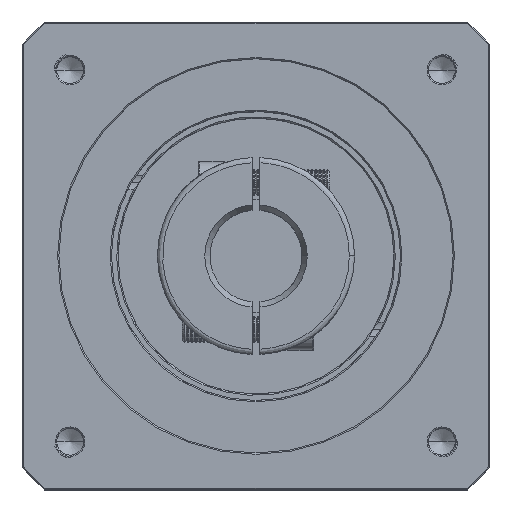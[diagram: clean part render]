
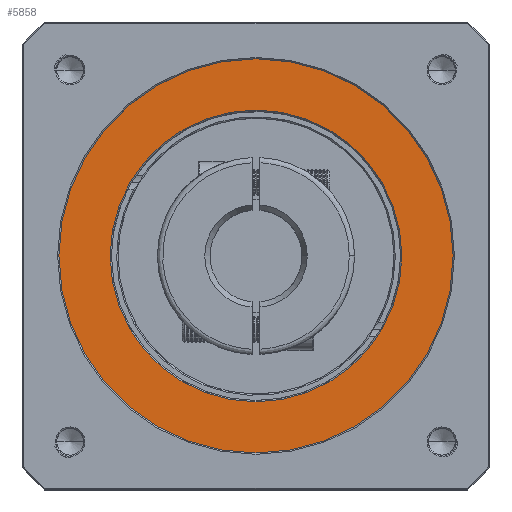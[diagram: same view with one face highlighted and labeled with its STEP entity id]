
A CAD part, top view. The second image highlights one B-rep face of the part: STEP entity #5858.
In plain terms, the highlighted planar face has unit normal (0, 0, 1).
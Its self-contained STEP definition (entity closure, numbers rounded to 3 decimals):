
#1558 = EDGE_CURVE ( 'NONE', #119367, #114705, #43926, .T. ) ;
#4806 = CARTESIAN_POINT ( 'NONE',  ( -70.688, 108.636, 9.651 ) ) ;
#5858 = ADVANCED_FACE ( 'NONE', ( #94772, #16259 ), #11797, .T. ) ;
#10297 = CARTESIAN_POINT ( 'NONE',  ( -145.688, 108.636, 9.651 ) ) ;
#11797 = PLANE ( 'NONE',  #82902 ) ;
#11944 = ORIENTED_EDGE ( 'NONE', *, *, #73073, .T. ) ;
#15308 = DIRECTION ( 'NONE',  ( 1., 0., 0. ) ) ;
#16259 = FACE_OUTER_BOUND ( 'NONE', #79743, .T. ) ;
#17910 = CARTESIAN_POINT ( 'NONE',  ( -70.688, 108.636, 9.651 ) ) ;
#22707 = AXIS2_PLACEMENT_3D ( 'NONE', #102888, #123915, #93685 ) ;
#26556 = ORIENTED_EDGE ( 'NONE', *, *, #133955, .T. ) ;
#32829 = CARTESIAN_POINT ( 'NONE',  ( 4.312, 108.636, 9.651 ) ) ;
#36257 = EDGE_CURVE ( 'NONE', #114705, #119367, #131810, .T. ) ;
#39808 = DIRECTION ( 'NONE',  ( 1., 0., 0. ) ) ;
#43722 = DIRECTION ( 'NONE',  ( 0., 0., 1. ) ) ;
#43926 = CIRCLE ( 'NONE', #118180, 75. ) ;
#45766 = CARTESIAN_POINT ( 'NONE',  ( -126.188, 108.636, 9.651 ) ) ;
#60333 = DIRECTION ( 'NONE',  ( 0., 0., -1. ) ) ;
#66281 = CIRCLE ( 'NONE', #22707, 55.5 ) ;
#66405 = DIRECTION ( 'NONE',  ( 0., 0., 1. ) ) ;
#73073 = EDGE_CURVE ( 'NONE', #78484, #123289, #92467, .T. ) ;
#78484 = VERTEX_POINT ( 'NONE', #93653 ) ;
#79743 = EDGE_LOOP ( 'NONE', ( #105182, #117814 ) ) ;
#79800 = DIRECTION ( 'NONE',  ( 1., 0., 0. ) ) ;
#82902 = AXIS2_PLACEMENT_3D ( 'NONE', #96728, #43722, #127778 ) ;
#86902 = AXIS2_PLACEMENT_3D ( 'NONE', #89813, #110947, #79800 ) ;
#89813 = CARTESIAN_POINT ( 'NONE',  ( -70.688, 108.636, 9.651 ) ) ;
#92467 = CIRCLE ( 'NONE', #123761, 55.5 ) ;
#93653 = CARTESIAN_POINT ( 'NONE',  ( -15.188, 108.636, 9.651 ) ) ;
#93685 = DIRECTION ( 'NONE',  ( 1., 0., 0. ) ) ;
#94772 = FACE_BOUND ( 'NONE', #100508, .T. ) ;
#96728 = CARTESIAN_POINT ( 'NONE',  ( -70.688, 108.636, 9.651 ) ) ;
#100508 = EDGE_LOOP ( 'NONE', ( #11944, #26556 ) ) ;
#102888 = CARTESIAN_POINT ( 'NONE',  ( -70.688, 108.636, 9.651 ) ) ;
#105182 = ORIENTED_EDGE ( 'NONE', *, *, #1558, .T. ) ;
#110947 = DIRECTION ( 'NONE',  ( 0., 0., 1. ) ) ;
#114705 = VERTEX_POINT ( 'NONE', #10297 ) ;
#117814 = ORIENTED_EDGE ( 'NONE', *, *, #36257, .T. ) ;
#118180 = AXIS2_PLACEMENT_3D ( 'NONE', #4806, #66405, #15308 ) ;
#119367 = VERTEX_POINT ( 'NONE', #32829 ) ;
#123289 = VERTEX_POINT ( 'NONE', #45766 ) ;
#123761 = AXIS2_PLACEMENT_3D ( 'NONE', #17910, #60333, #39808 ) ;
#123915 = DIRECTION ( 'NONE',  ( 0., 0., -1. ) ) ;
#127778 = DIRECTION ( 'NONE',  ( 1., 0., 0. ) ) ;
#131810 = CIRCLE ( 'NONE', #86902, 75. ) ;
#133955 = EDGE_CURVE ( 'NONE', #123289, #78484, #66281, .T. ) ;
